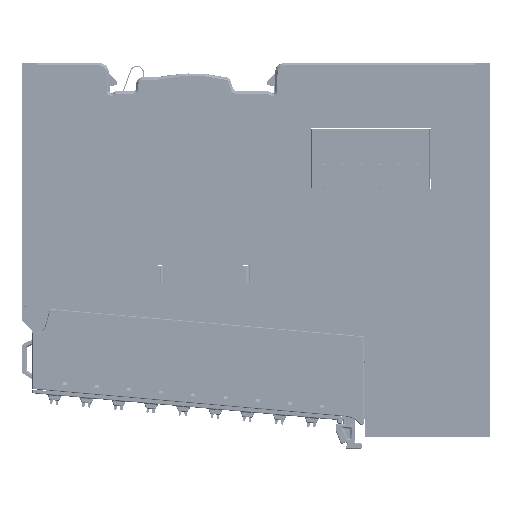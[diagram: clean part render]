
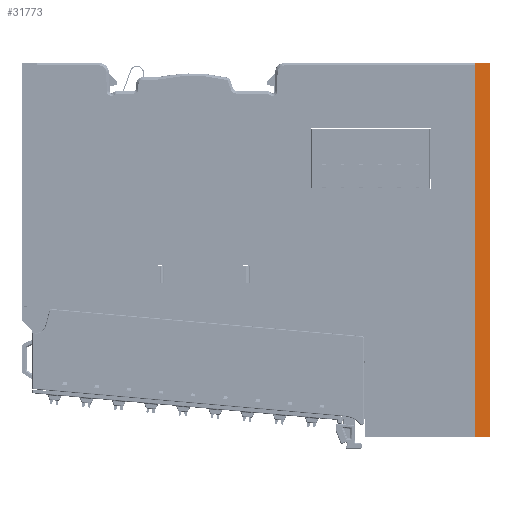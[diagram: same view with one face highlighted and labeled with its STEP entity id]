
A CAD part, front view. The second image highlights one B-rep face of the part: STEP entity #31773.
In plain terms, the highlighted planar face has unit normal (0, -1, 0).
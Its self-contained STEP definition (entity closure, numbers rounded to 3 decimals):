
#4092=DIRECTION('',(-1.,0.,0.));
#4093=VECTOR('',#4092,3.1);
#4094=CARTESIAN_POINT('',(50.,-8.7,-30.7));
#4095=LINE('',#4094,#4093);
#8291=DIRECTION('',(-1.,0.,0.));
#8292=VECTOR('',#8291,3.1);
#8293=CARTESIAN_POINT('',(50.,-8.7,49.227));
#8294=LINE('',#8293,#8292);
#14723=DIRECTION('',(0.,0.,-1.));
#14724=VECTOR('',#14723,79.927);
#14725=CARTESIAN_POINT('',(50.,-8.7,49.227));
#14726=LINE('',#14725,#14724);
#14744=DIRECTION('',(0.,0.,-1.));
#14745=VECTOR('',#14744,79.927);
#14746=CARTESIAN_POINT('',(46.9,-8.7,49.227));
#14747=LINE('',#14746,#14745);
#16485=CARTESIAN_POINT('',(50.,-8.7,-30.7));
#16486=CARTESIAN_POINT('',(46.9,-8.7,-30.7));
#16487=VERTEX_POINT('',#16485);
#16488=VERTEX_POINT('',#16486);
#18955=CARTESIAN_POINT('',(50.,-8.7,49.227));
#18956=CARTESIAN_POINT('',(46.9,-8.7,49.227));
#18957=VERTEX_POINT('',#18955);
#18958=VERTEX_POINT('',#18956);
#31761=CARTESIAN_POINT('',(50.,-8.7,49.3));
#31762=DIRECTION('',(0.,-1.,0.));
#31763=DIRECTION('',(-1.,0.,0.));
#31764=AXIS2_PLACEMENT_3D('',#31761,#31762,#31763);
#31765=PLANE('',#31764);
#31766=ORIENTED_EDGE('',*,*,#25564,.F.);
#31767=ORIENTED_EDGE('',*,*,#24857,.T.);
#31768=ORIENTED_EDGE('',*,*,#21245,.T.);
#31770=ORIENTED_EDGE('',*,*,#31769,.F.);
#31771=EDGE_LOOP('',(#31766,#31767,#31768,#31770));
#31772=FACE_OUTER_BOUND('',#31771,.F.);
#31773=ADVANCED_FACE('',(#31772),#31765,.T.);
#21245=EDGE_CURVE('',#16487,#16488,#4095,.T.);
#24857=EDGE_CURVE('',#18957,#16487,#14726,.T.);
#25564=EDGE_CURVE('',#18957,#18958,#8294,.T.);
#31769=EDGE_CURVE('',#18958,#16488,#14747,.T.);
